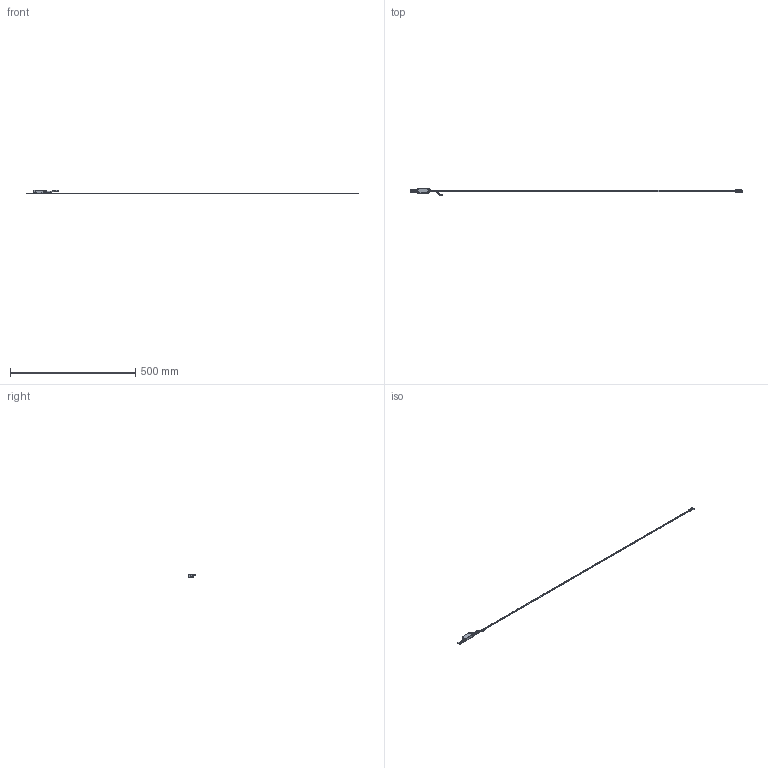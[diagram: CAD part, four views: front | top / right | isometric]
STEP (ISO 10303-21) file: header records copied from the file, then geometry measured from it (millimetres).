
FILE_DESCRIPTION(('Creo Elements/Direct Modeling STEP Export'),'2;1');
FILE_NAME('EXA-1220.stp','2017-01-11T15:34:33',(''),(''),'Creo Elements/Direct Modeling STEP processor for AP214 (Solid Model)','Creo Elements/Direct Modeling 18.1H 24-Oct-2015 (C) Parametric Technology GmbH','');
FILE_SCHEMA(('AUTOMOTIVE_DESIGN { 1 0 10303 214 1 1 1 1 }'));
Length unit declared in the file: millimetre
Products named in the file (3): CABEZA_REGLA_EXPOSED; FLEJE_REGLA_EXPOSED_ADHESIVADA_1220
Assembly tree (1 placements, depth 2):
  CABEZA_REGLA_EXPOSED
    CABEZA_REGLA_EXPOSED
  FLEJE_REGLA_EXPOSED_ADHESIVADA_1220
Bounding box: 1326 x 29.33 x 13.16 mm (x, y, z)
Volume: 15430.1 mm3; surface area: 23321.7 mm2
Topology: 2 solids, 4 shells, 1419 faces, 4032 edges, 2645 vertices
Faces by surface type: plane 1286, cylinder 93, cone 32, torus 8
Entity records: 43753 total; most frequent: ORIENTED_EDGE 8056, CARTESIAN_POINT 7593, DIRECTION 6335, EDGE_CURVE 4028, VECTOR 3541, LINE 3541, VERTEX_POINT 2645, EDGE_LOOP 1459
